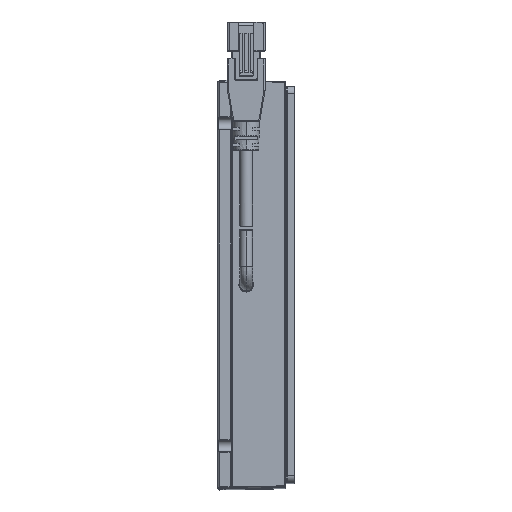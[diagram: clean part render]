
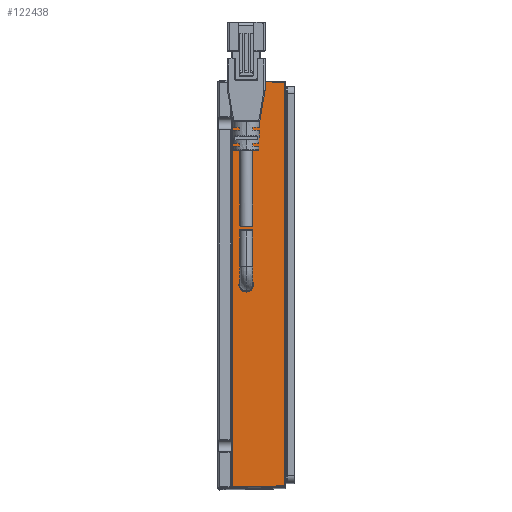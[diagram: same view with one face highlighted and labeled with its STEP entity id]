
A CAD part, top view. The second image highlights one B-rep face of the part: STEP entity #122438.
In plain terms, the highlighted planar face has unit normal (0.018, 0, 1).
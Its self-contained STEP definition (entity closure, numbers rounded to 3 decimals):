
#1199 = EDGE_LOOP ( 'NONE', ( #114472, #12407, #106798, #69140 ) ) ;
#2895 = CARTESIAN_POINT ( 'NONE',  ( 4.196, -56.386, 81.997 ) ) ;
#3709 = CARTESIAN_POINT ( 'NONE',  ( 8.003, 2.06, 81.93 ) ) ;
#6732 = CARTESIAN_POINT ( 'NONE',  ( 6.739, 1.647, 81.952 ) ) ;
#8283 = CARTESIAN_POINT ( 'NONE',  ( 9.27, 1.647, 81.908 ) ) ;
#12407 = ORIENTED_EDGE ( 'NONE', *, *, #73642, .T. ) ;
#14908 = CARTESIAN_POINT ( 'NONE',  ( 6.204, -1.037, 81.962 ) ) ;
#15094 = EDGE_CURVE ( 'NONE', #115845, #116798, #69053, .T. ) ;
#16123 = CARTESIAN_POINT ( 'NONE',  ( 6.205, 1.038, 81.962 ) ) ;
#16502 = CARTESIAN_POINT ( 'NONE',  ( 6.966, -1.799, 81.948 ) ) ;
#16778 = AXIS2_PLACEMENT_3D ( 'NONE', #51369, #31618, #98028 ) ;
#21409 = CARTESIAN_POINT ( 'NONE',  ( 8.273, -2.06, 81.925 ) ) ;
#21417 = B_SPLINE_CURVE_WITH_KNOTS ( 'NONE', 3,
 ( #70542, #42585, #61479, #100352, #6732, #62284, #16123, #119000, #91255, #24449, #53236, #14908, #110283, #42984, #16502, #24861, #72605, #71363 ),
 .UNSPECIFIED., .F., .F.,
 ( 4, 2, 2, 2, 2, 2, 2, 2, 4 ),
 ( 0., 0.125, 0.25, 0.375, 0.5, 0.625, 0.75, 0.875, 1. ),
 .UNSPECIFIED. ) ;
#22903 = CARTESIAN_POINT ( 'NONE',  ( 8.003, -2.06, 81.93 ) ) ;
#24449 = CARTESIAN_POINT ( 'NONE',  ( 5.944, -0.269, 81.966 ) ) ;
#24861 = CARTESIAN_POINT ( 'NONE',  ( 7.464, -2.006, 81.94 ) ) ;
#26312 = VECTOR ( 'NONE', #52455, 1000. ) ;
#26587 = VERTEX_POINT ( 'NONE', #100028 ) ;
#31618 = DIRECTION ( 'NONE',  ( 0.017, 0., 1. ) ) ;
#31715 = CARTESIAN_POINT ( 'NONE',  ( 9.269, -1.647, 81.908 ) ) ;
#35132 = CARTESIAN_POINT ( 'NONE',  ( 9.041, 1.8, 81.912 ) ) ;
#35415 = EDGE_CURVE ( 'NONE', #26587, #74330, #100809, .T. ) ;
#42585 = CARTESIAN_POINT ( 'NONE',  ( 7.735, 2.059, 81.935 ) ) ;
#42984 = CARTESIAN_POINT ( 'NONE',  ( 6.738, -1.647, 81.952 ) ) ;
#42985 = DIRECTION ( 'NONE',  ( 0., -1., 0. ) ) ;
#44187 = CARTESIAN_POINT ( 'NONE',  ( 9.651, 1.266, 81.901 ) ) ;
#47824 = CARTESIAN_POINT ( 'NONE',  ( 8.543, 2.006, 81.921 ) ) ;
#51369 = CARTESIAN_POINT ( 'NONE',  ( 4., 60.579, 82. ) ) ;
#52455 = DIRECTION ( 'NONE',  ( -1., 0.017, 0.017 ) ) ;
#52642 = LINE ( 'NONE', #91955, #85216 ) ;
#53236 = CARTESIAN_POINT ( 'NONE',  ( 5.998, -0.538, 81.965 ) ) ;
#53867 = DIRECTION ( 'NONE',  ( 0., -1., 0. ) ) ;
#54699 = VERTEX_POINT ( 'NONE', #84183 ) ;
#55757 = EDGE_CURVE ( 'NONE', #26587, #54699, #57200, .T. ) ;
#56963 = CARTESIAN_POINT ( 'NONE',  ( 10.01, 0.539, 81.895 ) ) ;
#57200 = LINE ( 'NONE', #79676, #26312 ) ;
#57624 = ORIENTED_EDGE ( 'NONE', *, *, #76622, .F. ) ;
#57988 = FACE_BOUND ( 'NONE', #104858, .T. ) ;
#58371 = PLANE ( 'NONE',  #16778 ) ;
#61479 = CARTESIAN_POINT ( 'NONE',  ( 7.465, 2.006, 81.94 ) ) ;
#62284 = CARTESIAN_POINT ( 'NONE',  ( 6.358, 1.266, 81.959 ) ) ;
#64668 = VERTEX_POINT ( 'NONE', #2895 ) ;
#67954 = CARTESIAN_POINT ( 'NONE',  ( 8.543, -2.006, 81.921 ) ) ;
#69053 = B_SPLINE_CURVE_WITH_KNOTS ( 'NONE', 3,
 ( #105613, #21409, #67954, #87367, #31715, #107229, #77468, #72397, #86431, #88849, #56963, #119365, #44187, #8283, #35132, #47824, #90251, #75706 ),
 .UNSPECIFIED., .F., .F.,
 ( 4, 2, 2, 2, 2, 2, 2, 2, 4 ),
 ( 0., 0.125, 0.25, 0.375, 0.5, 0.625, 0.75, 0.875, 1. ),
 .UNSPECIFIED. ) ;
#69140 = ORIENTED_EDGE ( 'NONE', *, *, #55757, .T. ) ;
#69741 = CARTESIAN_POINT ( 'NONE',  ( 18.803, -56.131, 81.742 ) ) ;
#70542 = CARTESIAN_POINT ( 'NONE',  ( 8.003, 2.06, 81.93 ) ) ;
#71363 = CARTESIAN_POINT ( 'NONE',  ( 8.003, -2.06, 81.93 ) ) ;
#72397 = CARTESIAN_POINT ( 'NONE',  ( 10.01, -0.54, 81.895 ) ) ;
#72605 = CARTESIAN_POINT ( 'NONE',  ( 7.735, -2.059, 81.935 ) ) ;
#73642 = EDGE_CURVE ( 'NONE', #64668, #74330, #52642, .T. ) ;
#73677 = CARTESIAN_POINT ( 'NONE',  ( 4.197, 56.727, 81.997 ) ) ;
#74330 = VERTEX_POINT ( 'NONE', #69741 ) ;
#75706 = CARTESIAN_POINT ( 'NONE',  ( 8.003, 2.06, 81.93 ) ) ;
#76622 = EDGE_CURVE ( 'NONE', #116798, #115845, #21417, .T. ) ;
#77468 = CARTESIAN_POINT ( 'NONE',  ( 9.803, -1.038, 81.899 ) ) ;
#79676 = CARTESIAN_POINT ( 'NONE',  ( 18.803, 56.472, 81.742 ) ) ;
#84183 = CARTESIAN_POINT ( 'NONE',  ( 4.197, 56.727, 81.997 ) ) ;
#84524 = FACE_OUTER_BOUND ( 'NONE', #1199, .T. ) ;
#85216 = VECTOR ( 'NONE', #91540, 1000. ) ;
#86431 = CARTESIAN_POINT ( 'NONE',  ( 10.063, -0.27, 81.894 ) ) ;
#87367 = CARTESIAN_POINT ( 'NONE',  ( 9.041, -1.8, 81.912 ) ) ;
#88849 = CARTESIAN_POINT ( 'NONE',  ( 10.064, 0.269, 81.894 ) ) ;
#90251 = CARTESIAN_POINT ( 'NONE',  ( 8.272, 2.06, 81.925 ) ) ;
#90500 = EDGE_CURVE ( 'NONE', #54699, #64668, #99664, .T. ) ;
#91255 = CARTESIAN_POINT ( 'NONE',  ( 5.945, 0.271, 81.966 ) ) ;
#91540 = DIRECTION ( 'NONE',  ( 1., 0.017, -0.017 ) ) ;
#91955 = CARTESIAN_POINT ( 'NONE',  ( 4.196, -56.386, 81.997 ) ) ;
#94919 = VECTOR ( 'NONE', #42985, 1000. ) ;
#98028 = DIRECTION ( 'NONE',  ( 1., 0., -0.017 ) ) ;
#99664 = LINE ( 'NONE', #73677, #101170 ) ;
#100028 = CARTESIAN_POINT ( 'NONE',  ( 18.803, 56.472, 81.742 ) ) ;
#100352 = CARTESIAN_POINT ( 'NONE',  ( 6.967, 1.8, 81.948 ) ) ;
#100809 = LINE ( 'NONE', #118611, #94919 ) ;
#101170 = VECTOR ( 'NONE', #53867, 1000. ) ;
#104858 = EDGE_LOOP ( 'NONE', ( #57624, #109764 ) ) ;
#105613 = CARTESIAN_POINT ( 'NONE',  ( 8.003, -2.06, 81.93 ) ) ;
#106798 = ORIENTED_EDGE ( 'NONE', *, *, #35415, .F. ) ;
#107229 = CARTESIAN_POINT ( 'NONE',  ( 9.651, -1.266, 81.901 ) ) ;
#109764 = ORIENTED_EDGE ( 'NONE', *, *, #15094, .F. ) ;
#110283 = CARTESIAN_POINT ( 'NONE',  ( 6.357, -1.265, 81.959 ) ) ;
#114472 = ORIENTED_EDGE ( 'NONE', *, *, #90500, .T. ) ;
#115845 = VERTEX_POINT ( 'NONE', #22903 ) ;
#116798 = VERTEX_POINT ( 'NONE', #3709 ) ;
#118611 = CARTESIAN_POINT ( 'NONE',  ( 18.803, 205.595, 81.742 ) ) ;
#119000 = CARTESIAN_POINT ( 'NONE',  ( 5.998, 0.54, 81.965 ) ) ;
#119365 = CARTESIAN_POINT ( 'NONE',  ( 9.804, 1.037, 81.899 ) ) ;
#122438 = ADVANCED_FACE ( 'NONE', ( #57988, #84524 ), #58371, .T. ) ;
